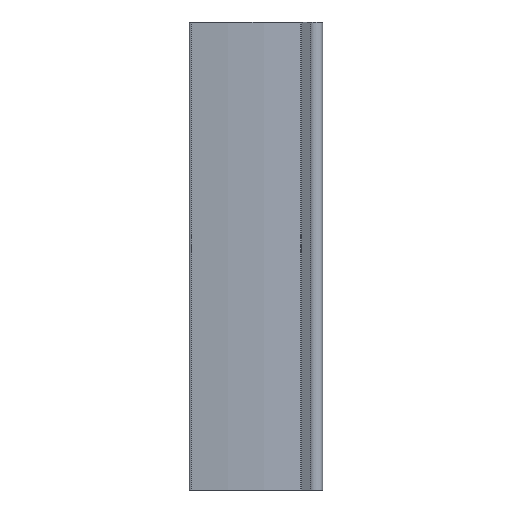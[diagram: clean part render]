
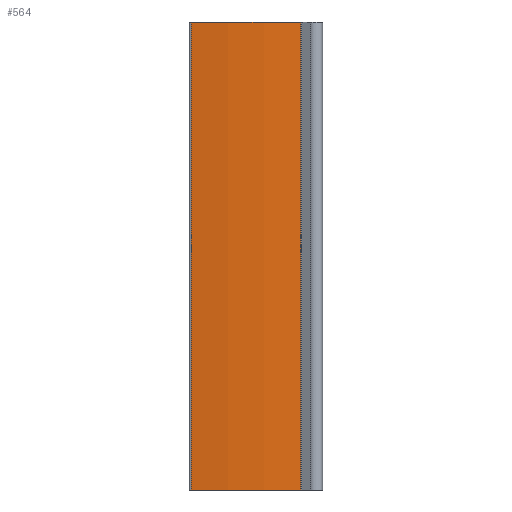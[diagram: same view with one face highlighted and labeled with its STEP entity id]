
A CAD part, left-side view. The second image highlights one B-rep face of the part: STEP entity #564.
In plain terms, the highlighted cylindrical face has radius 101.8 mm (diameter 203.6 mm), a partial arc.
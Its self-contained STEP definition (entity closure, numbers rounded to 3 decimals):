
#30=CIRCLE('',#618,101.8);
#31=CIRCLE('',#619,101.8);
#57=CYLINDRICAL_SURFACE('',#617,101.8);
#108=ORIENTED_EDGE('',*,*,#267,.T.);
#109=ORIENTED_EDGE('',*,*,#268,.F.);
#110=ORIENTED_EDGE('',*,*,#269,.F.);
#111=ORIENTED_EDGE('',*,*,#265,.T.);
#265=EDGE_CURVE('',#341,#340,#396,.T.);
#267=EDGE_CURVE('',#340,#342,#30,.T.);
#268=EDGE_CURVE('',#343,#342,#397,.T.);
#269=EDGE_CURVE('',#341,#343,#31,.T.);
#340=VERTEX_POINT('',#897);
#341=VERTEX_POINT('',#899);
#342=VERTEX_POINT('',#903);
#343=VERTEX_POINT('',#905);
#396=LINE('',#898,#448);
#397=LINE('',#904,#449);
#448=VECTOR('',#719,1000.);
#449=VECTOR('',#726,1000.);
#490=EDGE_LOOP('',(#108,#109,#110,#111));
#520=FACE_BOUND('',#490,.T.);
#564=ADVANCED_FACE('',(#520),#57,.T.);
#617=AXIS2_PLACEMENT_3D('',#901,#722,#723);
#618=AXIS2_PLACEMENT_3D('',#902,#724,#725);
#619=AXIS2_PLACEMENT_3D('',#906,#727,#728);
#719=DIRECTION('',(0.,0.,1.));
#722=DIRECTION('',(0.,0.,1.));
#723=DIRECTION('',(1.,0.,0.));
#724=DIRECTION('',(0.,0.,-1.));
#725=DIRECTION('',(-1.,0.,0.));
#726=DIRECTION('',(0.,0.,1.));
#727=DIRECTION('',(0.,0.,-1.));
#728=DIRECTION('',(-1.,0.,0.));
#897=CARTESIAN_POINT('',(-0.383,2.986,0.));
#898=CARTESIAN_POINT('',(-0.383,2.986,-102.));
#899=CARTESIAN_POINT('',(-0.383,2.986,-102.));
#901=CARTESIAN_POINT('',(100.948,12.753,-102.));
#902=CARTESIAN_POINT('',(100.948,12.753,0.));
#903=CARTESIAN_POINT('',(0.137,26.91,0.));
#904=CARTESIAN_POINT('',(0.137,26.91,-102.));
#905=CARTESIAN_POINT('',(0.137,26.91,-102.));
#906=CARTESIAN_POINT('',(100.948,12.753,-102.));
